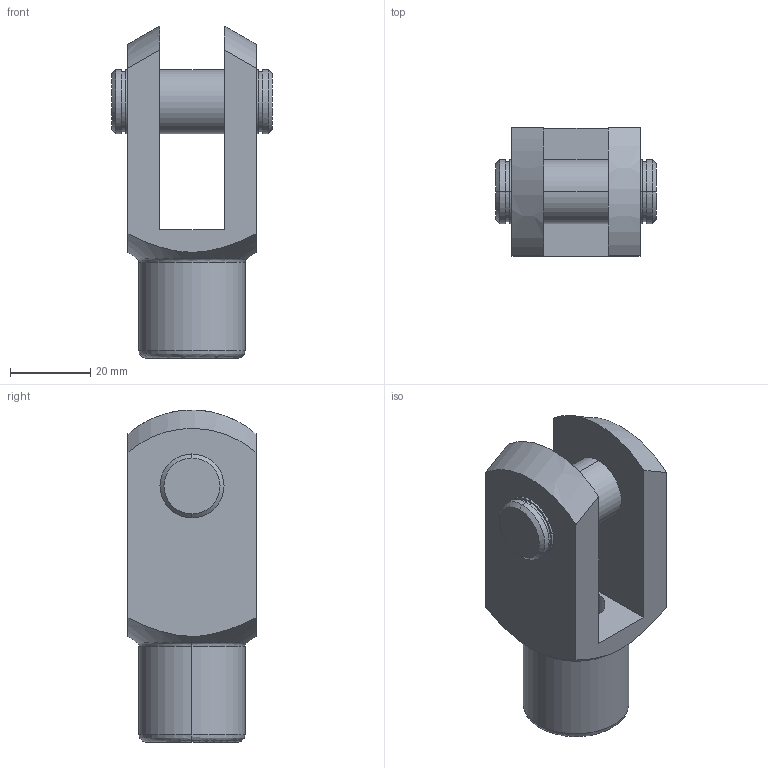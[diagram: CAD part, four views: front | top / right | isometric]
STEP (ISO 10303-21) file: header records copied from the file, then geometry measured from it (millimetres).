
FILE_DESCRIPTION (( 'STEP AP214' ), '1' );
FILE_NAME ('WCBK-063 (3DMY).STEP', '2017-11-20T14:36:23', ( 'Hidtek' ), ( '' ), 'SwSTEP 2.0', 'SolidWorks 2016', '' );
FILE_SCHEMA (( 'AUTOMOTIVE_DESIGN' ));
Length unit declared in the file: millimetre
Products named in the file (3): 4; WCBK-063 (3DMY); 1
Assembly tree (2 placements, depth 2):
  WCBK-063 (3DMY)
    1
    4
Bounding box: 40 x 32 x 82.99 mm (x, y, z)
Volume: 43576.9 mm3; surface area: 15674.3 mm2
Topology: 2 solids, 2 shells, 141 faces, 362 edges, 238 vertices
Faces by surface type: plane 97, cylinder 20, bspline 18, cone 6
Entity records: 5880 total; most frequent: CARTESIAN_POINT 1360, ORIENTED_EDGE 724, DIRECTION 632, EDGE_CURVE 362, VECTOR 276, LINE 276, VERTEX_POINT 238, AXIS2_PLACEMENT_3D 178
